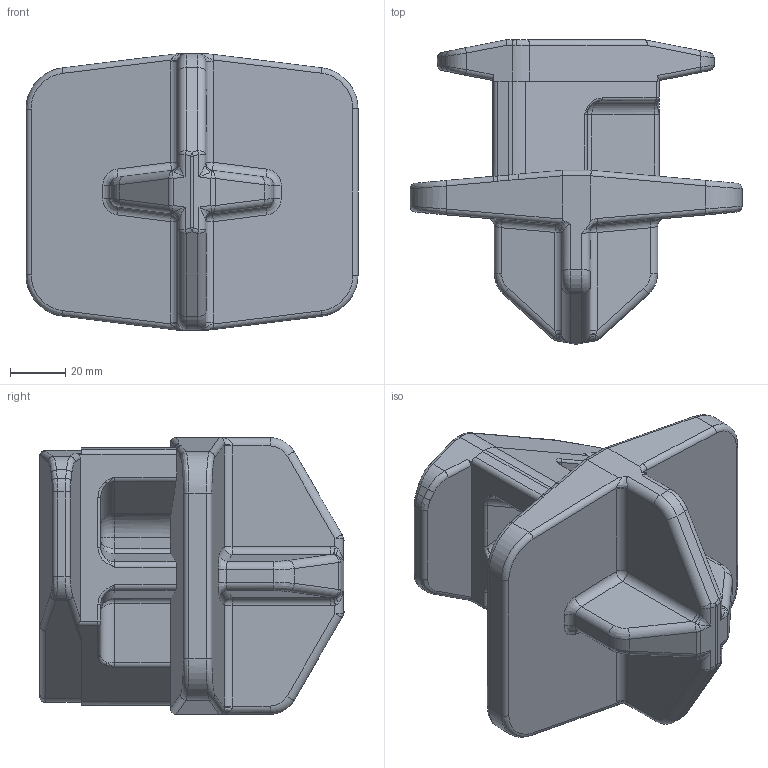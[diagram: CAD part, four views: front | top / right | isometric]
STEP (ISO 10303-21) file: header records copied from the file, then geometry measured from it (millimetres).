
FILE_DESCRIPTION (( 'STEP AP214' ), '1' );
FILE_NAME ('IF-91.STEP', '2026-06-18T08:39:11', ( '' ), ( '' ), 'SwSTEP 2.0', 'SolidWorks 2021', '' );
FILE_SCHEMA (( 'AUTOMOTIVE_DESIGN' ));
Length unit declared in the file: millimetre
Products named in the file (1): IF-91
Bounding box: 120 x 109.95 x 100 mm (x, y, z)
Volume: 394420.8 mm3; surface area: 57941.5 mm2
Topology: 1 solids, 1 shells, 437 faces, 1087 edges, 650 vertices
Faces by surface type: plane 171, cylinder 136, bspline 96, torus 19, sphere 15
Entity records: 15909 total; most frequent: CARTESIAN_POINT 6472, ORIENTED_EDGE 2142, DIRECTION 1736, EDGE_CURVE 1071, VERTEX_POINT 650, VECTOR 596, LINE 596, AXIS2_PLACEMENT_3D 570
